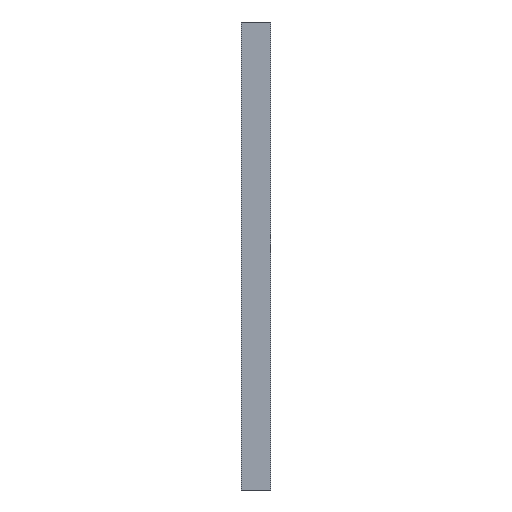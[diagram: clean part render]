
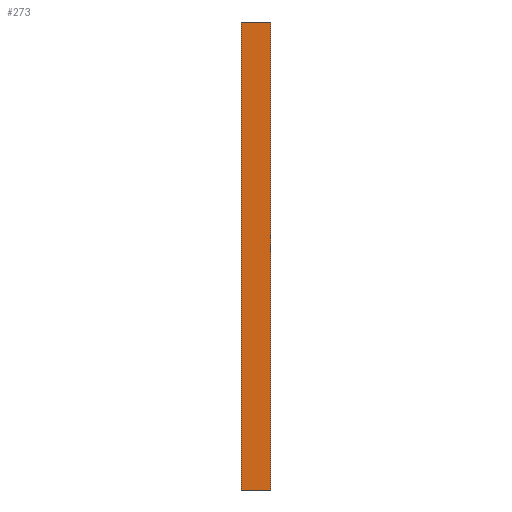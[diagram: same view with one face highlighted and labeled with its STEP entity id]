
A CAD part, left-side view. The second image highlights one B-rep face of the part: STEP entity #273.
In plain terms, the highlighted planar face has unit normal (-1, 0, 0).
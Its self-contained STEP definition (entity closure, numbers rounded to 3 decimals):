
#15 = DIRECTION ( 'NONE',  ( 0., 0., 1. ) ) ;
#20 = ORIENTED_EDGE ( 'NONE', *, *, #1014, .F. ) ;
#36 = VECTOR ( 'NONE', #781, 1000. ) ;
#43 = EDGE_CURVE ( 'NONE', #833, #80, #105, .T. ) ;
#80 = VERTEX_POINT ( 'NONE', #847 ) ;
#105 = LINE ( 'NONE', #461, #226 ) ;
#136 = DIRECTION ( 'NONE',  ( 0., 0., 1. ) ) ;
#171 = CARTESIAN_POINT ( 'NONE',  ( -155.5, 0., -284. ) ) ;
#221 = VERTEX_POINT ( 'NONE', #579 ) ;
#226 = VECTOR ( 'NONE', #15, 1000. ) ;
#252 = LINE ( 'NONE', #341, #483 ) ;
#273 = ADVANCED_FACE ( 'NONE', ( #903 ), #652, .T. ) ;
#308 = ORIENTED_EDGE ( 'NONE', *, *, #477, .T. ) ;
#320 = VECTOR ( 'NONE', #694, 1000. ) ;
#341 = CARTESIAN_POINT ( 'NONE',  ( -155.5, -20., 30. ) ) ;
#347 = DIRECTION ( 'NONE',  ( 0., 1., 0. ) ) ;
#369 = CARTESIAN_POINT ( 'NONE',  ( -155.5, -20., -284. ) ) ;
#461 = CARTESIAN_POINT ( 'NONE',  ( -155.5, -20., -284. ) ) ;
#477 = EDGE_CURVE ( 'NONE', #80, #221, #252, .T. ) ;
#483 = VECTOR ( 'NONE', #347, 1000. ) ;
#499 = CARTESIAN_POINT ( 'NONE',  ( -155.5, -20., -284. ) ) ;
#526 = LINE ( 'NONE', #171, #36 ) ;
#568 = CARTESIAN_POINT ( 'NONE',  ( -155.5, -20., -284. ) ) ;
#578 = EDGE_CURVE ( 'NONE', #833, #840, #976, .T. ) ;
#579 = CARTESIAN_POINT ( 'NONE',  ( -155.5, 0., 30. ) ) ;
#652 = PLANE ( 'NONE',  #701 ) ;
#694 = DIRECTION ( 'NONE',  ( 0., 1., 0. ) ) ;
#701 = AXIS2_PLACEMENT_3D ( 'NONE', #568, #727, #136 ) ;
#722 = ORIENTED_EDGE ( 'NONE', *, *, #578, .F. ) ;
#727 = DIRECTION ( 'NONE',  ( -1., 0., 0. ) ) ;
#744 = ORIENTED_EDGE ( 'NONE', *, *, #43, .T. ) ;
#781 = DIRECTION ( 'NONE',  ( 0., 0., 1. ) ) ;
#833 = VERTEX_POINT ( 'NONE', #499 ) ;
#840 = VERTEX_POINT ( 'NONE', #1023 ) ;
#847 = CARTESIAN_POINT ( 'NONE',  ( -155.5, -20., 30. ) ) ;
#903 = FACE_OUTER_BOUND ( 'NONE', #988, .T. ) ;
#976 = LINE ( 'NONE', #369, #320 ) ;
#988 = EDGE_LOOP ( 'NONE', ( #20, #722, #744, #308 ) ) ;
#1014 = EDGE_CURVE ( 'NONE', #840, #221, #526, .T. ) ;
#1023 = CARTESIAN_POINT ( 'NONE',  ( -155.5, 0., -284. ) ) ;
